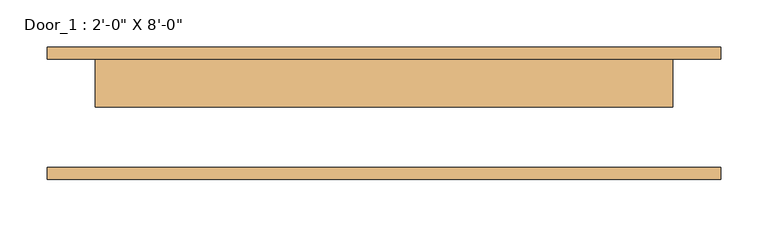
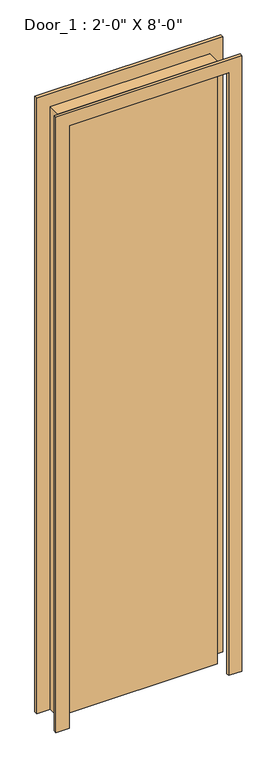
"""IFC4 building model written with IfcOpenShell, lengths in millimetres: door geometry."""

import ifcopenshell
import ifcopenshell.guid

model = None  # the IFC model being written
_history = None  # IfcOwnerHistory: only IFC2X3 demands one
_inside = {}  # id of a spatial element -> (the spatial element, [elements in it])
_under = {}  # id of a project, library or spatial element -> (it, [spatial elements below it])
_declared = {}  # id of a project -> (the project, [libraries it declares])
_typed = {}  # id of a type object -> (the type object, [elements of that type])
_made_of = {}  # id of a material, layer set ... -> (it, [elements and type objects made of it])


def new_model(schema):
    """Start an empty IFC model of exactly this schema.

    Asked for "IFC4X3", IfcOpenShell would pick the latest addendum, in which some entities
    have other attributes; the version numbers below select the first issue.
    IFC2X3 requires an IfcOwnerHistory on every rooted entity: one is made here for all.
    """
    global model, _history
    if schema == "IFC4X3":
        model = ifcopenshell.file(schema_version=(4, 3, 0, 0))
    else:
        model = ifcopenshell.file(schema=schema)
    _inside.clear()
    _under.clear()
    _declared.clear()
    _typed.clear()
    _made_of.clear()
    _history = None
    if model.schema == "IFC2X3":
        org = make("IfcOrganization", Name="unknown")
        user = make(
            "IfcPersonAndOrganization",
            ThePerson=make("IfcPerson", FamilyName="unknown"),
            TheOrganization=org,
        )
        app = make(
            "IfcApplication",
            ApplicationDeveloper=org,
            Version="unknown",
            ApplicationFullName="unknown",
            ApplicationIdentifier="unknown",
        )
        _history = make(
            "IfcOwnerHistory",
            OwningUser=user,
            OwningApplication=app,
            ChangeAction="ADDED",
            CreationDate=0,
        )
    return model


def make(cls, **values):
    """One entity of the class cls with the attributes given. An attribute that is None is left unset."""
    return model.create_entity(
        cls, **{name: value for name, value in values.items() if value is not None}
    )


def rooted(cls, **values):
    """An entity with a GlobalId (a new one), such as an element, a storey or a relation."""
    return make(cls, GlobalId=ifcopenshell.guid.new(), OwnerHistory=_history, **values)


def si_unit(unit_type, name, prefix=None):
    """IfcSIUnit, for example si_unit("LENGTHUNIT", "METRE", prefix="MILLI")."""
    return make("IfcSIUnit", UnitType=unit_type, Prefix=prefix, Name=name)


def assignment(units):
    """IfcUnitAssignment: the units of a project."""
    return None if units is None else make("IfcUnitAssignment", Units=units)


def point(xyz):
    """IfcCartesianPoint."""
    return None if xyz is None else make("IfcCartesianPoint", Coordinates=xyz)


def direction(xyz):
    """IfcDirection."""
    return None if xyz is None else make("IfcDirection", DirectionRatios=xyz)


def frame(location, z_axis=None, x_axis=None):
    """IfcAxis2Placement3D, a coordinate frame: its origin and axes. An axis left out is left unset."""
    return make(
        "IfcAxis2Placement3D",
        Location=point(location),
        Axis=direction(z_axis),
        RefDirection=direction(x_axis),
    )


def origin():
    """The frame at (0, 0, 0) with its axes left unset."""
    return frame((0.0, 0.0, 0.0))


def origin_with_axes():
    """The frame at (0, 0, 0) with the z axis (0, 0, 1) and the x axis (1, 0, 0) written out."""
    return frame((0.0, 0.0, 0.0), z_axis=(0.0, 0.0, 1.0), x_axis=(1.0, 0.0, 0.0))


def place(relative_to, where):
    """IfcLocalPlacement: puts the frame where relative to a parent placement (None: the world)."""
    return make(
        "IfcLocalPlacement", PlacementRelTo=relative_to, RelativePlacement=where
    )


def context(
    kind, dimensions, precision=None, world=None, true_north=None, identifier=None
):
    """IfcGeometricRepresentationContext, for example the 3D "Model" context."""
    return make(
        "IfcGeometricRepresentationContext",
        ContextIdentifier=identifier,
        ContextType=kind,
        CoordinateSpaceDimension=dimensions,
        Precision=precision,
        WorldCoordinateSystem=world,
        TrueNorth=true_north,
    )


def project(units=None, contexts=None):
    """IfcProject with its units and contexts."""
    return rooted(
        "IfcProject",
        Name="project",
        RepresentationContexts=contexts,
        UnitsInContext=assignment(units),
    )


def spatial(cls, under=None, at=None, **own):
    """A site, building, storey or space (cls), placed at a placement, below another one or the project."""
    s = rooted(cls, ObjectPlacement=at, **own)
    if under is not None:
        _under.setdefault(under.id(), (under, []))[1].append(s)
    return s


def polyline(points):
    """IfcPolyline through the points."""
    return make("IfcPolyline", Points=[point(p) for p in points])


def outline(outer, holes=None, kind="AREA"):
    """IfcArbitraryClosedProfileDef: a profile drawn as a closed curve; with holes, ...WithVoids."""
    if holes is None:
        return make("IfcArbitraryClosedProfileDef", ProfileType=kind, OuterCurve=outer)
    return make(
        "IfcArbitraryProfileDefWithVoids",
        ProfileType=kind,
        OuterCurve=outer,
        InnerCurves=holes,
    )


def extrude(swept, where, along, depth):
    """IfcExtrudedAreaSolid: the profile swept, set in the frame where, extruded along a direction by depth."""
    return make(
        "IfcExtrudedAreaSolid",
        SweptArea=swept,
        Position=where,
        ExtrudedDirection=direction(along),
        Depth=depth,
    )


def shape(context_of_items, identifier, shape_type, items):
    """IfcShapeRepresentation: the items that make up one representation, for example the "Body"."""
    return make(
        "IfcShapeRepresentation",
        ContextOfItems=context_of_items,
        RepresentationIdentifier=identifier,
        RepresentationType=shape_type,
        Items=items,
    )


def source(mapping_origin, context_of_items, identifier, shape_type, items):
    """IfcRepresentationMap: a shape defined once, which mapped items show again and again."""
    return make(
        "IfcRepresentationMap",
        MappingOrigin=mapping_origin,
        MappedRepresentation=shape(context_of_items, identifier, shape_type, items),
    )


def transform(
    local_origin,
    x_axis=None,
    y_axis=None,
    z_axis=None,
    scale=None,
    scale2=None,
    scale3=None,
    uniform=True,
):
    """IfcCartesianTransformationOperator3D, or its non-uniform kind. x_axis, y_axis, z_axis: its Axis1, 2, 3."""
    if uniform:
        return make(
            "IfcCartesianTransformationOperator3D",
            Axis1=direction(x_axis),
            Axis2=direction(y_axis),
            LocalOrigin=point(local_origin),
            Scale=scale,
            Axis3=direction(z_axis),
        )
    return make(
        "IfcCartesianTransformationOperator3DnonUniform",
        Axis1=direction(x_axis),
        Axis2=direction(y_axis),
        LocalOrigin=point(local_origin),
        Scale=scale,
        Axis3=direction(z_axis),
        Scale2=scale2,
        Scale3=scale3,
    )


def mapped(mapping_source, mapping_target):
    """IfcMappedItem: shows the shape of a source again, moved by a transform."""
    return make(
        "IfcMappedItem", MappingSource=mapping_source, MappingTarget=mapping_target
    )


def made_of(thing, what):
    """Note that an element or type object is made of a material, layer set ...; save() writes the relation."""
    if what is not None:
        _made_of.setdefault(what.id(), (what, []))[1].append(thing)
    return thing


def element(
    cls,
    number,
    at=None,
    inside=None,
    cuts=None,
    type_object=None,
    material=None,
    context=None,
    identifier="Body",
    shape_type=None,
    held_by="IfcProductDefinitionShape",
    body=None,
    shapes=None,
    **own,
):
    """One element of the class cls, such as IfcWall. Its Tag is "e" and its number.

    at: its placement. inside: the storey or other place that contains it. cuts: it is an
    opening in that element (IfcRelVoidsElement). A single representation is given by context,
    identifier, shape_type and body (its items); several are given by shapes. held_by: the class
    of the entity that holds the representations. save() writes the other relations.
    """
    e = rooted(cls, Tag="e%d" % number, ObjectPlacement=at, **own)
    if body is not None:
        shapes = [shape(context, identifier, shape_type, body)]
    if shapes is not None:
        e.Representation = make(held_by, Representations=shapes)
    if inside is not None:
        _inside.setdefault(inside.id(), (inside, []))[1].append(e)
    if cuts is not None:
        rooted(
            "IfcRelVoidsElement", RelatingBuildingElement=cuts, RelatedOpeningElement=e
        )
    if type_object is not None:
        _typed.setdefault(type_object.id(), (type_object, []))[1].append(e)
    return made_of(e, material)


def aggregate(whole, parts):
    """IfcRelAggregates: a whole, such as a stair, and the parts it consists of."""
    return rooted("IfcRelAggregates", RelatingObject=whole, RelatedObjects=parts)


def save(model, path):
    """Write the relations noted so far, then the file.

    IfcRelAggregates (storeys below a building ...), IfcRelContainedInSpatialStructure (elements
    in a storey), IfcRelDefinesByType, IfcRelAssociatesMaterial and IfcRelDeclares: one each for
    every whole, place, type object, material and project.
    """
    for whole, parts in _under.values():
        aggregate(whole, parts)
    for where, things in _inside.values():
        rooted(
            "IfcRelContainedInSpatialStructure",
            RelatedElements=things,
            RelatingStructure=where,
        )
    for kind, things in _typed.values():
        rooted("IfcRelDefinesByType", RelatedObjects=things, RelatingType=kind)
    for what, things in _made_of.values():
        rooted("IfcRelAssociatesMaterial", RelatedObjects=things, RelatingMaterial=what)
    for by, libraries in _declared.values():
        rooted("IfcRelDeclares", RelatingContext=by, RelatedDefinitions=libraries)
    model.write(path)


def door_7e4155b5(model_context):
    return source(origin(), model_context, "Body", "SweptSolid", [
        extrude(outline(polyline([(2489.2, -355.6), (0.0, -355.6), (0.0, -304.8), (2438.4, -304.8), (2438.4, 304.8), (0.0, 304.8), (0.0, 355.6), (2489.2, 355.6), (2489.2, -355.6)])), frame((0.0, 57.15, 0.0), z_axis=(0.0, 1.0, 0.0), x_axis=(0.0, 0.0, 1.0)), (0.0, 0.0, 1.0), 12.7),
        extrude(outline(polyline([(2489.2, 355.6), (2489.2, -355.6), (0.0, -355.6), (0.0, -304.8), (2438.4, -304.8), (2438.4, 304.8), (0.0, 304.8), (0.0, 355.6), (2489.2, 355.6)])), frame((0.0, -69.85, 0.0), z_axis=(0.0, 1.0, 0.0), x_axis=(0.0, 0.0, 1.0)), (0.0, 0.0, 1.0), 12.7),
        extrude(outline(polyline([(304.8, 6.35), (-304.8, 6.35), (-304.8, 57.15), (304.8, 57.15), (304.8, 6.35)])), origin_with_axes(), (0.0, 0.0, 1.0), 2438.4),
    ])


if __name__ == "__main__":
    model = new_model("IFC4")
    model_context = context("Model", 3, world=origin())
    ifc_project = project(units=[si_unit("LENGTHUNIT", "METRE", prefix="MILLI")], contexts=[model_context])
    site = spatial("IfcSite", under=ifc_project)
    building = spatial("IfcBuilding", under=site)
    placement = place(None, origin())
    door_shape = door_7e4155b5(model_context)
    element("IfcDoor", 1, ObjectType="Door_1 : 2'-0\" X 8'-0\"", at=placement, inside=building, context=model_context, shape_type="MappedRepresentation", body=[
        mapped(door_shape, transform((0.0, 0.0, 0.0), x_axis=(1.0, 0.0, 0.0), y_axis=(0.0, 1.0, 0.0), z_axis=(0.0, 0.0, 1.0))),
    ])
    save(model, "model.ifc")
